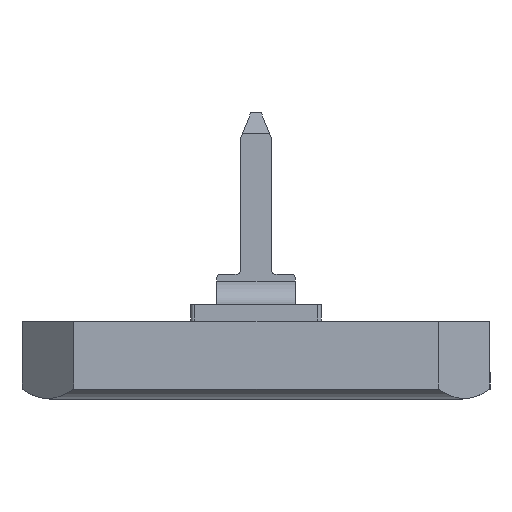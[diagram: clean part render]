
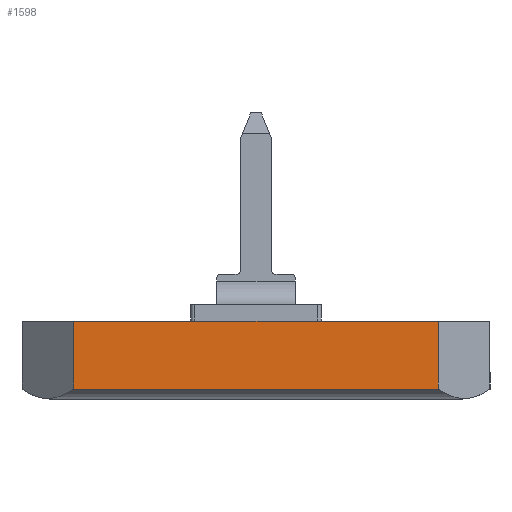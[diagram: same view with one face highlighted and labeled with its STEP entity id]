
A CAD part, left-side view. The second image highlights one B-rep face of the part: STEP entity #1598.
In plain terms, the highlighted planar face has unit normal (-1, 0, 0).
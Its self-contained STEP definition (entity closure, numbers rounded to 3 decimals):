
#40 = CARTESIAN_POINT ( 'NONE',  ( 0., 0., 2.997 ) ) ;
#50 = CARTESIAN_POINT ( 'NONE',  ( 0., -16.002, 0.385 ) ) ;
#102 = AXIS2_PLACEMENT_3D ( 'NONE', #40, #2299, #2155 ) ;
#150 = PLANE ( 'NONE',  #102 ) ;
#328 = VERTEX_POINT ( 'NONE', #1690 ) ;
#490 = CARTESIAN_POINT ( 'NONE',  ( 0., -16.002, 2.997 ) ) ;
#509 = VERTEX_POINT ( 'NONE', #1651 ) ;
#595 = EDGE_CURVE ( 'NONE', #328, #1028, #1685, .T. ) ;
#653 = EDGE_CURVE ( 'NONE', #509, #1596, #1616, .T. ) ;
#688 = ORIENTED_EDGE ( 'NONE', *, *, #911, .T. ) ;
#770 = FACE_OUTER_BOUND ( 'NONE', #2112, .T. ) ;
#772 = ORIENTED_EDGE ( 'NONE', *, *, #653, .T. ) ;
#776 = ORIENTED_EDGE ( 'NONE', *, *, #595, .F. ) ;
#790 = CARTESIAN_POINT ( 'NONE',  ( 0., 0., 0.385 ) ) ;
#906 = CARTESIAN_POINT ( 'NONE',  ( 0., -16.002, 2.997 ) ) ;
#911 = EDGE_CURVE ( 'NONE', #1596, #1028, #1449, .T. ) ;
#971 = DIRECTION ( 'NONE',  ( 0., -1., 0. ) ) ;
#1028 = VERTEX_POINT ( 'NONE', #906 ) ;
#1145 = CARTESIAN_POINT ( 'NONE',  ( 0., 0., 2.997 ) ) ;
#1230 = DIRECTION ( 'NONE',  ( 0., -1., 0. ) ) ;
#1348 = DIRECTION ( 'NONE',  ( 0., 0., 1. ) ) ;
#1386 = VECTOR ( 'NONE', #971, 1000. ) ;
#1415 = DIRECTION ( 'NONE',  ( 0., 0., -1. ) ) ;
#1449 = LINE ( 'NONE', #490, #2641 ) ;
#1558 = VECTOR ( 'NONE', #1415, 1000. ) ;
#1590 = VECTOR ( 'NONE', #1230, 1000. ) ;
#1596 = VERTEX_POINT ( 'NONE', #50 ) ;
#1598 = ADVANCED_FACE ( 'NONE', ( #770 ), #150, .F. ) ;
#1616 = LINE ( 'NONE', #790, #1386 ) ;
#1651 = CARTESIAN_POINT ( 'NONE',  ( 0., -1.981, 0.385 ) ) ;
#1685 = LINE ( 'NONE', #1145, #1590 ) ;
#1690 = CARTESIAN_POINT ( 'NONE',  ( 0., -1.981, 2.997 ) ) ;
#1881 = CARTESIAN_POINT ( 'NONE',  ( 0., -1.981, 2.997 ) ) ;
#2112 = EDGE_LOOP ( 'NONE', ( #2663, #772, #688, #776 ) ) ;
#2155 = DIRECTION ( 'NONE',  ( 0., 1., 0. ) ) ;
#2299 = DIRECTION ( 'NONE',  ( 1., 0., 0. ) ) ;
#2368 = EDGE_CURVE ( 'NONE', #328, #509, #2662, .T. ) ;
#2641 = VECTOR ( 'NONE', #1348, 1000. ) ;
#2662 = LINE ( 'NONE', #1881, #1558 ) ;
#2663 = ORIENTED_EDGE ( 'NONE', *, *, #2368, .T. ) ;
